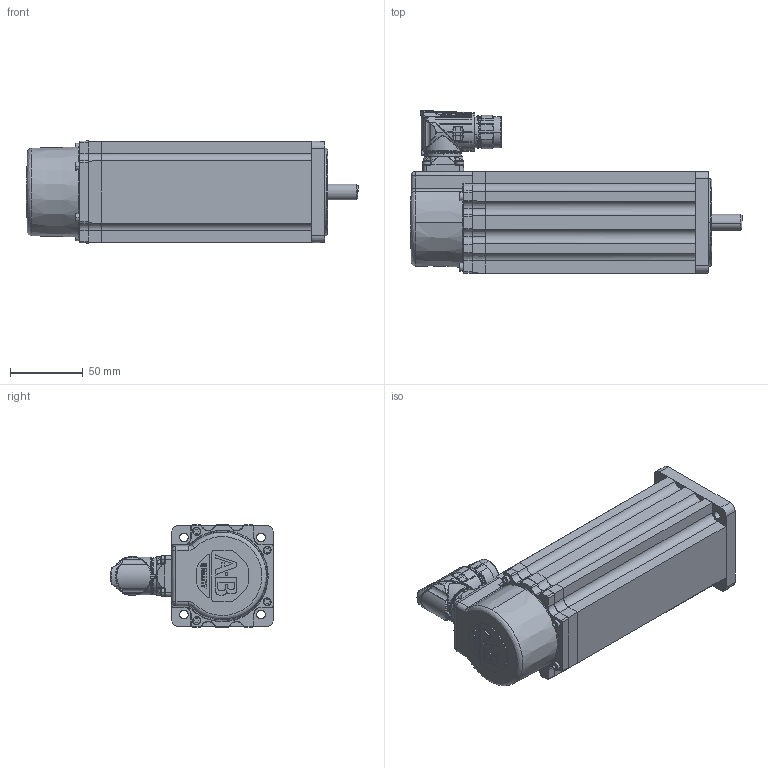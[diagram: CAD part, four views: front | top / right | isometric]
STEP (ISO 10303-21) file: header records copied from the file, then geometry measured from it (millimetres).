
FILE_DESCRIPTION (( 'STEP AP214' ), '1' );
FILE_NAME ('Rockwell Automation-$PARTNUMBER.STEP', '2014-03-01T16:29:23', ( 'Windows User' ), ( '' ), 'SwSTEP 2.0', 'SolidWorks 2014', '' );
FILE_SCHEMA (( 'AUTOMOTIVE_DESIGN' ));
Length unit declared in the file: inch
Products named in the file (26): Rockwell Automation-$PARTNUMBER_Rockwell Automation-VPL-x0753x-xKx4xx_PRT0001; Rockwell Automation-$PARTNUMBER_Rockwell Automation-VPL-x0753x-xKx4xx_vpl-middle-075_0753-k-break; Rockwell Automation-$PARTNUMBER_Rockwell Automation-VPL-x0753x-xKx4xx_10000220495_ASM_1_ANY_ASM; Rockwell Automation-$PARTNUMBER_Rockwell Automation-VPL-x0753x-xKx4xx_10000206533_AF0_ANY; Rockwell Automation-$PARTNUMBER; Rockwell Automation-$PARTNUMBER_Rockwell Automation-VPL-x0753x-xKx4xx_10000220495_ASM_ANY; Rockwell Automation-$PARTNUMBER_Rockwell Automation-VPL-x0753x-xKx4xx_10000205606_AF31_ANY; Rockwell Automation-$PARTNUMBER_Rockwell Automation-VPL-x0753x-xKx4xx_10000218021_ANY; Rockwell Automation-$PARTNUMBER_Rockwell Automation-VPL-x0753x-xKx4xx_91290A115_ANY; Rockwell Automation-$PARTNUMBER_Rockwell Automation-VPL-x0753x-xKx4xx_M23_Connector; Rockwell Automation-$PARTNUMBER_Rockwell Automation-VPL-x0753x-xKx4xx_10000014326-M23_ASM; Rockwell Automation-$PARTNUMBER_Rockwell Automation-VPL-x0753x-xKx4xx_10000014326-1; Rockwell Automation-$PARTNUMBER_Rockwell Automation-VPL-x0753x-xKx4xx_10000014325-1; Rockwell Automation-$PARTNUMBER_Rockwell Automation-VPL-x0753x-xKx4xx_10000540833; Rockwell Automation-$PARTNUMBER_Rockwell Automation-VPL-x0753x-xKx4xx_FRONT_without key_1; Rockwell Automation-$PARTNUMBER_Rockwell Automation-VPL-x0753x-xKx4xx_FRONT_1; Rockwell Automation-$PARTNUMBER_Rockwell Automation-VPL-x0753x-xKx4xx_tab; Rockwell Automation-$PARTNUMBER_Rockwell Automation-VPL-x0753x-xKx4xx_10000169222_ANY_1; Rockwell Automation-$PARTNUMBER_Rockwell Automation-VPL-x0753x-xKx4xx_vpl-075_0753_without key_break; Rockwell Automation-$PARTNUMBER_Rockwell Automation-VPL-x0753x-xKx4xx_10000206536_ASM_ANY_ASM_1; Rockwell Automation-$PARTNUMBER_Rockwell Automation-VPL-x0753x-xKx4xx_without key_3_Shaft_K_3_4; Rockwell Automation-$PARTNUMBER_Rockwell Automation-VPL-x0753x-xKx4xx_10000206535_AF0_ANY_1; Rockwell Automation-$PARTNUMBER_Rockwell Automation-VPL-x0753x-xKx4xx_REAR_ASM_ANY_ASM; Rockwell Automation-$PARTNUMBER_Rockwell Automation-VPL-x0753x-xKx4xx_10000210273_AF2_ANY_1; Rockwell Automation-$PARTNUMBER_Rockwell Automation-VPL-x0753x-xKx4xx_PRT0002; Rockwell Automation-$PARTNUMBER_Rockwell Automation-VPL-x0753x-xKx4xx_10000213398_ANY_1
Assembly tree (35 placements, depth 6):
  Rockwell Automation-$PARTNUMBER
    Rockwell Automation-$PARTNUMBER_Rockwell Automation-VPL-x0753x-xKx4xx_vpl-075_0753_without key_break
      Rockwell Automation-$PARTNUMBER_Rockwell Automation-VPL-x0753x-xKx4xx_vpl-middle-075_0753-k-break
      Rockwell Automation-$PARTNUMBER_Rockwell Automation-VPL-x0753x-xKx4xx_FRONT_without key_1
        Rockwell Automation-$PARTNUMBER_Rockwell Automation-VPL-x0753x-xKx4xx_FRONT_1
          Rockwell Automation-$PARTNUMBER_Rockwell Automation-VPL-x0753x-xKx4xx_10000213398_ANY_1
          Rockwell Automation-$PARTNUMBER_Rockwell Automation-VPL-x0753x-xKx4xx_10000206536_ASM_ANY_ASM_1
            Rockwell Automation-$PARTNUMBER_Rockwell Automation-VPL-x0753x-xKx4xx_10000210273_AF2_ANY_1
            Rockwell Automation-$PARTNUMBER_Rockwell Automation-VPL-x0753x-xKx4xx_10000206535_AF0_ANY_1
          Rockwell Automation-$PARTNUMBER_Rockwell Automation-VPL-x0753x-xKx4xx_10000169222_ANY_1  x4
      Rockwell Automation-$PARTNUMBER_Rockwell Automation-VPL-x0753x-xKx4xx_REAR_ASM_ANY_ASM
        Rockwell Automation-$PARTNUMBER_Rockwell Automation-VPL-x0753x-xKx4xx_M23_Connector
          Rockwell Automation-$PARTNUMBER_Rockwell Automation-VPL-x0753x-xKx4xx_10000540833
          Rockwell Automation-$PARTNUMBER_Rockwell Automation-VPL-x0753x-xKx4xx_10000014325-1
          Rockwell Automation-$PARTNUMBER_Rockwell Automation-VPL-x0753x-xKx4xx_10000014326-M23_ASM
            Rockwell Automation-$PARTNUMBER_Rockwell Automation-VPL-x0753x-xKx4xx_10000014326-1
        Rockwell Automation-$PARTNUMBER_Rockwell Automation-VPL-x0753x-xKx4xx_91290A115_ANY  x4
        Rockwell Automation-$PARTNUMBER_Rockwell Automation-VPL-x0753x-xKx4xx_10000218021_ANY  x2
        Rockwell Automation-$PARTNUMBER_Rockwell Automation-VPL-x0753x-xKx4xx_10000220495_ASM_1_ANY_ASM
          Rockwell Automation-$PARTNUMBER_Rockwell Automation-VPL-x0753x-xKx4xx_10000205606_AF31_ANY
          Rockwell Automation-$PARTNUMBER_Rockwell Automation-VPL-x0753x-xKx4xx_10000220495_ASM_ANY  x2
          Rockwell Automation-$PARTNUMBER_Rockwell Automation-VPL-x0753x-xKx4xx_10000206533_AF0_ANY
        Rockwell Automation-$PARTNUMBER_Rockwell Automation-VPL-x0753x-xKx4xx_PRT0001  x4
        Rockwell Automation-$PARTNUMBER_Rockwell Automation-VPL-x0753x-xKx4xx_PRT0002
      Rockwell Automation-$PARTNUMBER_Rockwell Automation-VPL-x0753x-xKx4xx_without key_3_Shaft_K_3_4
  Rockwell Automation-$PARTNUMBER_Rockwell Automation-VPL-x0753x-xKx4xx_tab
Bounding box: 228.5 x 112.23 x 70.31 mm (x, y, z)
Volume: 411058.4 mm3; surface area: 197166.3 mm2
Topology: 21 solids, 41 shells, 3121 faces, 8572 edges, 5551 vertices
Faces by surface type: cylinder 1014, plane 935, bspline 787, cone 383, torus 2
Entity records: 160150 total; most frequent: CARTESIAN_POINT 87141, ORIENTED_EDGE 14393, DIRECTION 8507, EDGE_CURVE 7215, VERTEX_POINT 4734, B_SPLINE_CURVE_WITH_KNOTS 3657, AXIS2_PLACEMENT_3D 3190, EDGE_LOOP 2765
